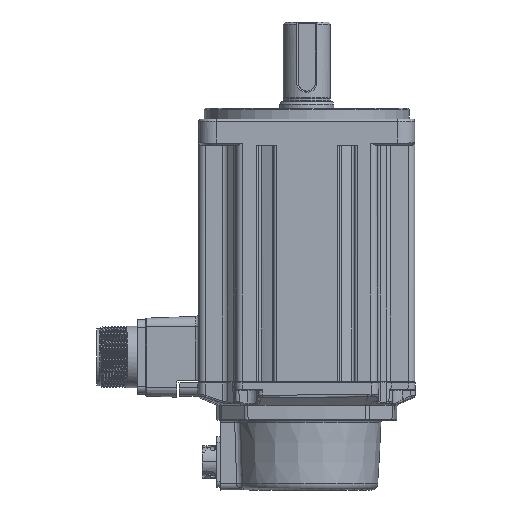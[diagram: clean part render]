
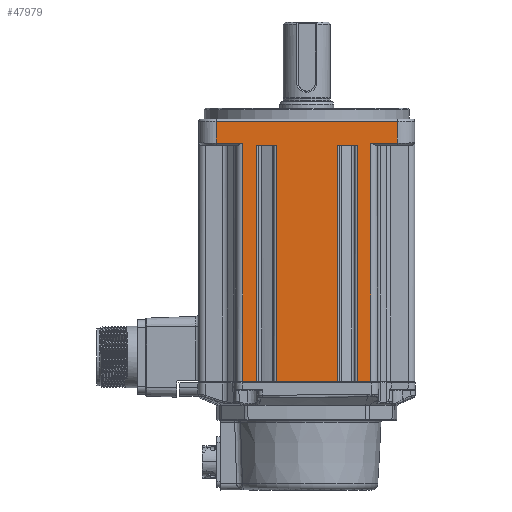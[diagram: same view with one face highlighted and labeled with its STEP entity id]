
A CAD part, left-side view. The second image highlights one B-rep face of the part: STEP entity #47979.
In plain terms, the highlighted planar face has unit normal (-1, 0, 0).
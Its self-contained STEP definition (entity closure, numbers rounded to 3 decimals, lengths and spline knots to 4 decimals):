
#8481=DIRECTION('',(0.,-1.,0.));
#8482=VECTOR('',#8481,0.3583);
#8483=CARTESIAN_POINT('',(-1.9685,0.9173,
1.9409));
#8484=LINE('',#8483,#8482);
#8514=DIRECTION('',(0.,1.,0.017));
#8515=VECTOR('',#8514,0.4823);
#8516=CARTESIAN_POINT('',(-1.9685,1.1713,1.9664));
#8517=LINE('',#8516,#8515);
#8518=DIRECTION('',(0.,0.,-1.));
#8519=VECTOR('',#8518,0.3992);
#8520=CARTESIAN_POINT('',(-1.9685,1.6535,2.374));
#8521=LINE('',#8520,#8519);
#8522=DIRECTION('',(0.,-1.,0.));
#8523=VECTOR('',#8522,3.3071);
#8524=CARTESIAN_POINT('',(-1.9685,1.6535,2.374));
#8525=LINE('',#8524,#8523);
#8526=DIRECTION('',(0.,1.,-0.017));
#8527=VECTOR('',#8526,0.4823);
#8528=CARTESIAN_POINT('',(-1.9685,-1.6535,
1.9748));
#8529=LINE('',#8528,#8527);
#8530=DIRECTION('',(0.,1.,0.));
#8531=VECTOR('',#8530,0.254);
#8532=CARTESIAN_POINT('',(-1.9685,-1.1713,
-2.3661));
#8533=LINE('',#8532,#8531);
#8534=DIRECTION('',(0.,0.,-1.));
#8535=VECTOR('',#8534,4.3071);
#8536=CARTESIAN_POINT('',(-1.9685,-0.9173,
1.9409));
#8537=LINE('',#8536,#8535);
#8538=DIRECTION('',(0.,0.,1.));
#8539=VECTOR('',#8538,4.3071);
#8540=CARTESIAN_POINT('',(-1.9685,-0.5591,
-2.3661));
#8541=LINE('',#8540,#8539);
#8542=DIRECTION('',(0.,1.,0.));
#8543=VECTOR('',#8542,1.1181);
#8544=CARTESIAN_POINT('',(-1.9685,-0.5591,
-2.3661));
#8545=LINE('',#8544,#8543);
#8546=DIRECTION('',(0.,0.,-1.));
#8547=VECTOR('',#8546,4.3071);
#8548=CARTESIAN_POINT('',(-1.9685,0.5591,
1.9409));
#8549=LINE('',#8548,#8547);
#8550=DIRECTION('',(0.,0.,1.));
#8551=VECTOR('',#8550,4.3071);
#8552=CARTESIAN_POINT('',(-1.9685,0.9173,
-2.3661));
#8553=LINE('',#8552,#8551);
#8554=DIRECTION('',(0.,1.,0.));
#8555=VECTOR('',#8554,0.254);
#8556=CARTESIAN_POINT('',(-1.9685,0.9173,
-2.3661));
#8557=LINE('',#8556,#8555);
#9556=DIRECTION('',(0.,0.,-1.));
#9557=VECTOR('',#9556,0.3992);
#9558=CARTESIAN_POINT('',(-1.9685,-1.6535,
2.374));
#9559=LINE('',#9558,#9557);
#9656=CARTESIAN_POINT('',(-1.9685,1.6535,1.9748));
#12109=DIRECTION('',(0.,0.,1.));
#12110=VECTOR('',#12109,4.3325);
#12111=CARTESIAN_POINT('',(-1.9685,-1.1713,
-2.3661));
#12112=LINE('',#12111,#12110);
#12223=DIRECTION('',(0.,0.,-1.));
#12224=VECTOR('',#12223,4.3325);
#12225=CARTESIAN_POINT('',(-1.9685,1.1713,
1.9664));
#12226=LINE('',#12225,#12224);
#27371=DIRECTION('',(0.,-1.,0.));
#27372=VECTOR('',#27371,0.3583);
#27373=CARTESIAN_POINT('',(-1.9685,-0.5591,
1.9409));
#27374=LINE('',#27373,#27372);
#28589=CARTESIAN_POINT('',(-1.9685,1.6535,
2.374));
#28591=VERTEX_POINT('',#28589);
#28594=CARTESIAN_POINT('',(-1.9685,-1.6535,
2.374));
#28595=VERTEX_POINT('',#28594);
#28782=CARTESIAN_POINT('',(-1.9685,0.9173,
-2.3661));
#28784=VERTEX_POINT('',#28782);
#28786=CARTESIAN_POINT('',(-1.9685,-0.5591,
-2.3661));
#28788=VERTEX_POINT('',#28786);
#28789=CARTESIAN_POINT('',(-1.9685,-0.9173,
-2.3661));
#28791=VERTEX_POINT('',#28789);
#28809=CARTESIAN_POINT('',(-1.9685,0.5591,
-2.3661));
#28811=VERTEX_POINT('',#28809);
#28823=CARTESIAN_POINT('',(-1.9685,-1.1713,
-2.3661));
#28824=VERTEX_POINT('',#28823);
#28825=CARTESIAN_POINT('',(-1.9685,1.1713,
-2.3661));
#28827=VERTEX_POINT('',#28825);
#28922=VERTEX_POINT('',#9656);
#28925=CARTESIAN_POINT('',(-1.9685,1.1713,
1.9664));
#28926=VERTEX_POINT('',#28925);
#28941=CARTESIAN_POINT('',(-1.9685,-1.6535,
1.9748));
#28942=CARTESIAN_POINT('',(-1.9685,-1.1713,
1.9664));
#28943=VERTEX_POINT('',#28941);
#28944=VERTEX_POINT('',#28942);
#28999=CARTESIAN_POINT('',(-1.9685,0.9173,
1.9409));
#29000=VERTEX_POINT('',#28999);
#29003=CARTESIAN_POINT('',(-1.9685,-0.5591,
1.9409));
#29004=VERTEX_POINT('',#29003);
#29007=CARTESIAN_POINT('',(-1.9685,-0.9173,
1.9409));
#29008=VERTEX_POINT('',#29007);
#29011=CARTESIAN_POINT('',(-1.9685,0.5591,
1.9409));
#29012=VERTEX_POINT('',#29011);
#47945=CARTESIAN_POINT('',(-1.9685,1.6535,
2.4134));
#47946=DIRECTION('',(-1.,0.,0.));
#47947=DIRECTION('',(0.,-1.,0.));
#47948=AXIS2_PLACEMENT_3D('',#47945,#47946,#47947);
#47949=PLANE('',#47948);
#47951=ORIENTED_EDGE('',*,*,#47950,.T.);
#47953=ORIENTED_EDGE('',*,*,#47952,.F.);
#47955=ORIENTED_EDGE('',*,*,#47954,.T.);
#47957=ORIENTED_EDGE('',*,*,#47956,.T.);
#47959=ORIENTED_EDGE('',*,*,#47958,.T.);
#47961=ORIENTED_EDGE('',*,*,#47960,.F.);
#47962=ORIENTED_EDGE('',*,*,#47525,.T.);
#47964=ORIENTED_EDGE('',*,*,#47963,.F.);
#47966=ORIENTED_EDGE('',*,*,#47965,.F.);
#47968=ORIENTED_EDGE('',*,*,#47967,.F.);
#47969=ORIENTED_EDGE('',*,*,#47509,.T.);
#47971=ORIENTED_EDGE('',*,*,#47970,.F.);
#47972=ORIENTED_EDGE('',*,*,#47916,.F.);
#47973=ORIENTED_EDGE('',*,*,#47866,.F.);
#47974=ORIENTED_EDGE('',*,*,#47653,.T.);
#47976=ORIENTED_EDGE('',*,*,#47975,.F.);
#47977=EDGE_LOOP('',(#47951,#47953,#47955,#47957,#47959,#47961,#47962,#47964,
#47966,#47968,#47969,#47971,#47972,#47973,#47974,#47976));
#47978=FACE_OUTER_BOUND('',#47977,.F.);
#47509=EDGE_CURVE('',#28788,#28811,#8545,.T.);
#47525=EDGE_CURVE('',#28824,#28791,#8533,.T.);
#47653=EDGE_CURVE('',#28784,#28827,#8557,.T.);
#47866=EDGE_CURVE('',#28784,#29000,#8553,.T.);
#47916=EDGE_CURVE('',#29000,#29012,#8484,.T.);
#47950=EDGE_CURVE('',#28926,#28922,#8517,.T.);
#47952=EDGE_CURVE('',#28591,#28922,#8521,.T.);
#47954=EDGE_CURVE('',#28591,#28595,#8525,.T.);
#47956=EDGE_CURVE('',#28595,#28943,#9559,.T.);
#47958=EDGE_CURVE('',#28943,#28944,#8529,.T.);
#47960=EDGE_CURVE('',#28824,#28944,#12112,.T.);
#47963=EDGE_CURVE('',#29008,#28791,#8537,.T.);
#47965=EDGE_CURVE('',#29004,#29008,#27374,.T.);
#47967=EDGE_CURVE('',#28788,#29004,#8541,.T.);
#47970=EDGE_CURVE('',#29012,#28811,#8549,.T.);
#47975=EDGE_CURVE('',#28926,#28827,#12226,.T.);
#47979=ADVANCED_FACE('',(#47978),#47949,.T.);
